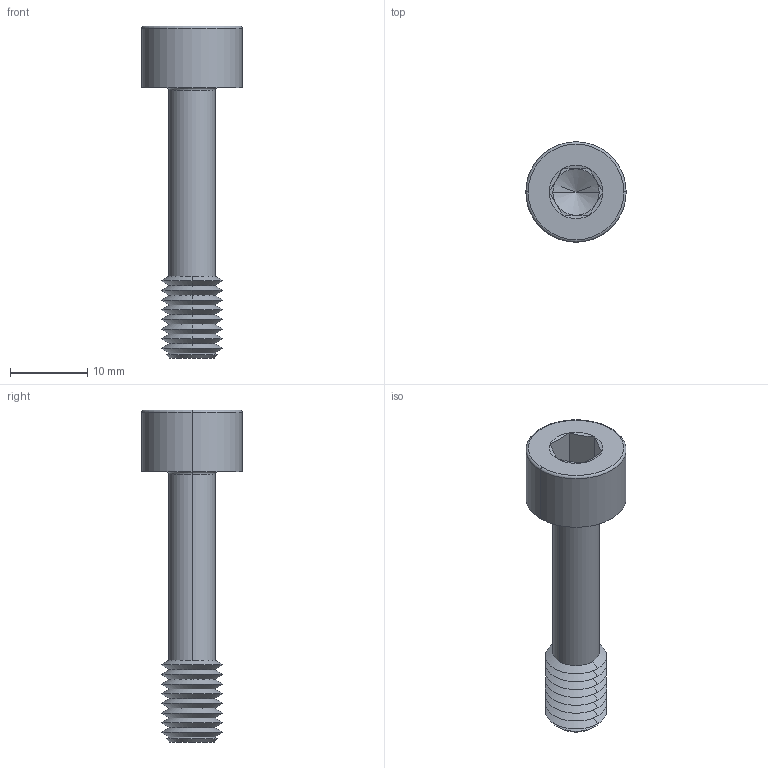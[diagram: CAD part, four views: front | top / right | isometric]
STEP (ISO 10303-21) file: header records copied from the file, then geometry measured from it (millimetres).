
FILE_DESCRIPTION (( 'STEP AP203' ), '1' );
FILE_NAME ('P0154.080-035-BL.step', '2024-06-17T11:31:49', ( '' ), ( '' ), 'SwSTEP 2.0', 'SolidWorks 2019', '' );
FILE_SCHEMA (( 'CONFIG_CONTROL_DESIGN' ));
Length unit declared in the file: millimetre
Products named in the file (1): P0154.080-035-BL
Bounding box: 13 x 13 x 43 mm (x, y, z)
Volume: 1945 mm3; surface area: 1623.8 mm2
Topology: 1 solids, 1 shells, 67 faces, 136 edges, 71 vertices
Faces by surface type: cone 44, plane 15, torus 4, cylinder 4
Entity records: 1787 total; most frequent: DIRECTION 332, CARTESIAN_POINT 299, ORIENTED_EDGE 268, AXIS2_PLACEMENT_3D 136, EDGE_CURVE 134, VERTEX_POINT 71, EDGE_LOOP 69, CIRCLE 68
